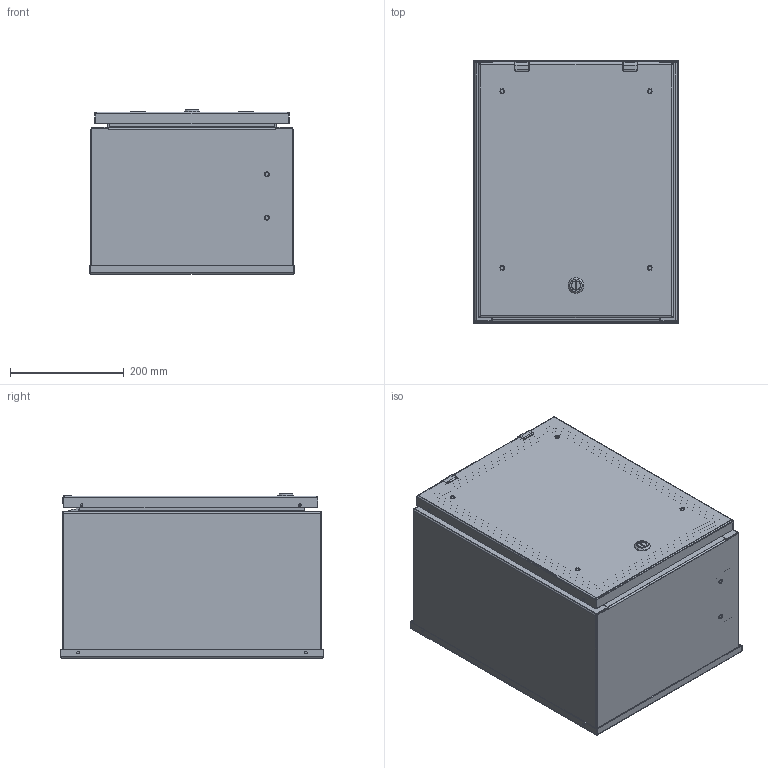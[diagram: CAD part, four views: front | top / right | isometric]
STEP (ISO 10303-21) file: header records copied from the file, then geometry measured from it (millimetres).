
FILE_DESCRIPTION((''),'2;1');
FILE_NAME('MODEL-363_ASM','2023-01-25T16:11:48',('johnh'),('SAGINAW CONTROL & ENGINEERING'),'CREO PARAMETRIC BY PTC INC, 2021284','CREO PARAMETRIC BY PTC INC, 2021284','');
FILE_SCHEMA(('AUTOMOTIVE_DESIGN { 1 0 10303 214 1 1 1 1 }'));
Length unit declared in the file: inch
Products named in the file (31): MODEL-363-BDY; MODEL-363-R-SIDE; MODEL-363-L-SIDE; MODEL-363-R-DR; 126391; 126391_ASM; 126393; 102483; 101226; 101376; 102140; 100057; 100794_SHAFT; 100794_INSERT; 100794_CAM; 100794_NUT; 100794_SCREW; 100794_ASM; MODEL-363-PR-GSKT-R; 127573; 100009; 122255; 127497; 100882; MODEL-363-F-DR; MODEL-363-PR-GSKT-F; 100837; CH-ELJ_SUBPANEL; 102479; CH-ELJ_SUBPANEL-SUBASSEMBLY_ASM; MODEL-363_ASM
Assembly tree (77 placements, depth 3):
  MODEL-363_ASM
    MODEL-363-BDY
    MODEL-363-R-SIDE
    MODEL-363-L-SIDE
    MODEL-363-R-DR
    126391_ASM  x2
      126391
    126393  x2
    102483  x6
    101226  x2
    101376  x2
    102140  x2
    100057  x9
    100794_ASM
      100794_SHAFT
      100794_INSERT
      100794_CAM
      100794_NUT
      100794_SCREW
    MODEL-363-PR-GSKT-R
    127573
    100009  x4
    122255
    127497  x2
    100882  x16
    MODEL-363-F-DR
    MODEL-363-PR-GSKT-F
    100837  x8
    CH-ELJ_SUBPANEL-SUBASSEMBLY_ASM
      CH-ELJ_SUBPANEL
      102479  x4
Bounding box: 362.46 x 464.06 x 289.45 mm (x, y, z)
Volume: 2302291.6 mm3; surface area: 2288415.8 mm2
Topology: 75 solids, 75 shells, 6282 faces, 16801 edges, 10644 vertices
Faces by surface type: bspline 2488, plane 2310, cylinder 1037, torus 237, cone 190, sphere 20
Entity records: 94462 total; most frequent: CARTESIAN_POINT 27203, ORIENTED_EDGE 9690, DIRECTION 9157, PRESENTATION_STYLE_ASSIGNMENT 5046, EDGE_CURVE 4845, STYLED_ITEM 4771, CURVE_STYLE 4683, AXIS2_PLACEMENT_3D 3323
